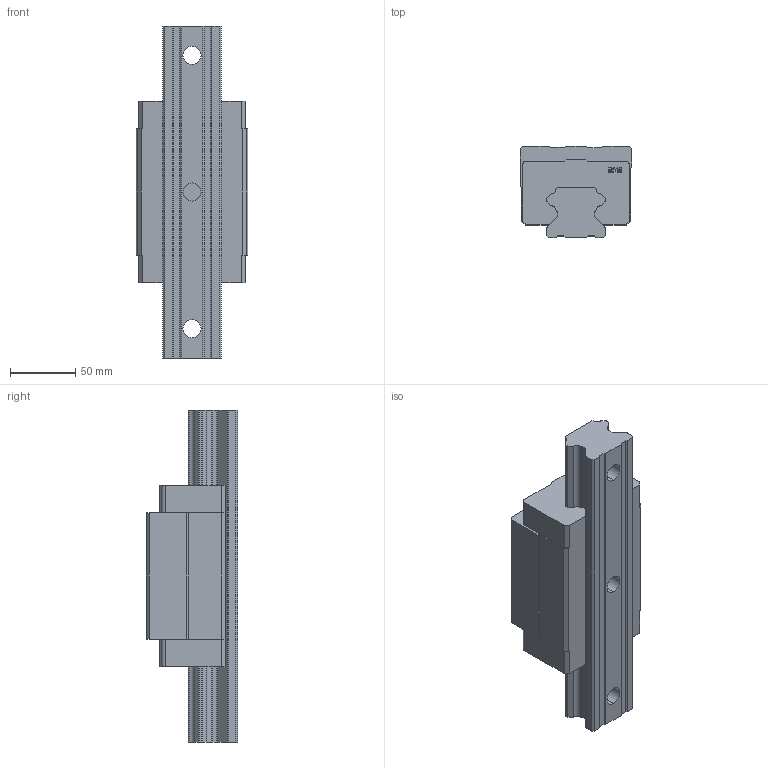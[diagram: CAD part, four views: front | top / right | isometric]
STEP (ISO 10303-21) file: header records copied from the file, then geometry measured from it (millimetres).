
FILE_DESCRIPTION (( 'STEP AP214' ), '1' );
FILE_NAME ('7.1021 Lineaarikelkka HTH45CA.STEP', '2026-03-11T06:38:53', ( '' ), ( '' ), 'SwSTEP 2.0', 'SolidWorks 2025', '' );
FILE_SCHEMA (( 'AUTOMOTIVE_DESIGN' ));
Length unit declared in the file: millimetre
Products named in the file (3): 7.1021 Lineaarikelkka HTH45CA; HTR45; HTH45
Assembly tree (2 placements, depth 2):
  7.1021 Lineaarikelkka HTH45CA
    HTH45
    HTR45
Bounding box: 86 x 70 x 255 mm (x, y, z)
Volume: 855296.7 mm3; surface area: 109829.7 mm2
Topology: 2 solids, 2 shells, 239 faces, 651 edges, 434 vertices
Faces by surface type: plane 168, cylinder 50, bspline 21
Entity records: 11778 total; most frequent: CARTESIAN_POINT 3018, ORIENTED_EDGE 1302, DIRECTION 1155, EDGE_CURVE 651, VECTOR 509, LINE 509, VERTEX_POINT 434, AXIS2_PLACEMENT_3D 323
